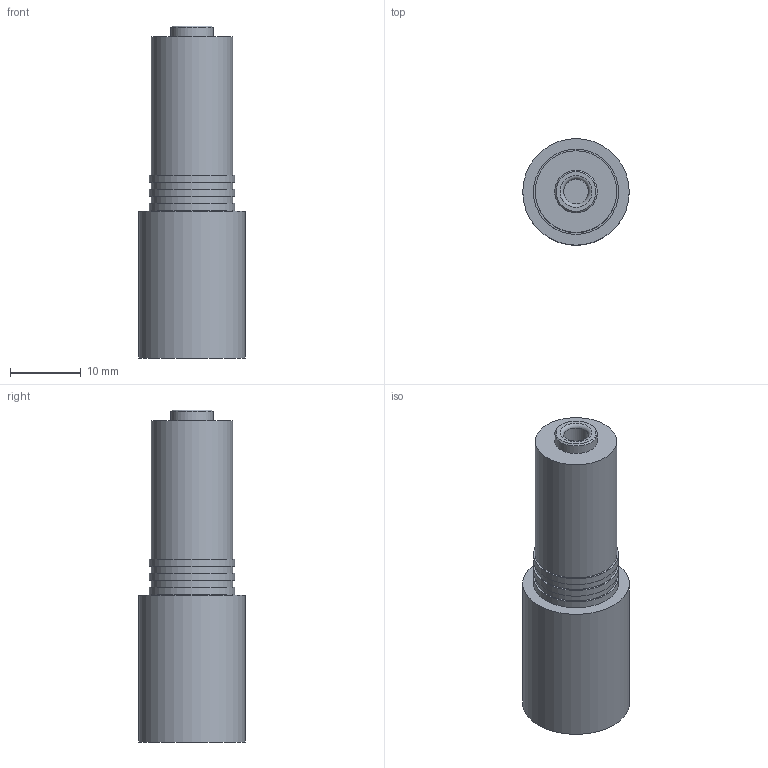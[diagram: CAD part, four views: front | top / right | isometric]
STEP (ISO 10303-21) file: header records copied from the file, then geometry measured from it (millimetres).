
FILE_DESCRIPTION(/* description */ (''),/* implementation_level */ '2;1');
FILE_NAME(/* name */ 'Jack Audio 3e5 Femmina.stp',/* time_stamp */ '2026-07-13T09:10:56+03:00',/* author */ ('USER'),/* organization */ (''),/* preprocessor_version */ 'ST-DEVELOPER v20',/* originating_system */ 'Autodesk Inventor 2025',/* authorisation */ '');
FILE_SCHEMA (('AUTOMOTIVE_DESIGN { 1 0 10303 214 3 1 1 }'));
Length unit declared in the file: millimetre
Products named in the file (1): Jack Audio 3e5 Femmina
Bounding box: 15 x 15 x 46.77 mm (x, y, z)
Volume: 6135.4 mm3; surface area: 2465.5 mm2
Topology: 1 solids, 1 shells, 23 faces, 34 edges, 22 vertices
Faces by surface type: plane 11, cylinder 10, torus 1, cone 1
Full cylindrical faces by diameter (mm): 3.5 x1, 6 x1, 11.5 x4, 12 x3, 15 x1
Entity records: 573 total; most frequent: DIRECTION 105, CARTESIAN_POINT 80, ORIENTED_EDGE 68, AXIS2_PLACEMENT_3D 47, EDGE_CURVE 34, EDGE_LOOP 32, FACE_OUTER_BOUND 23, CIRCLE 23
